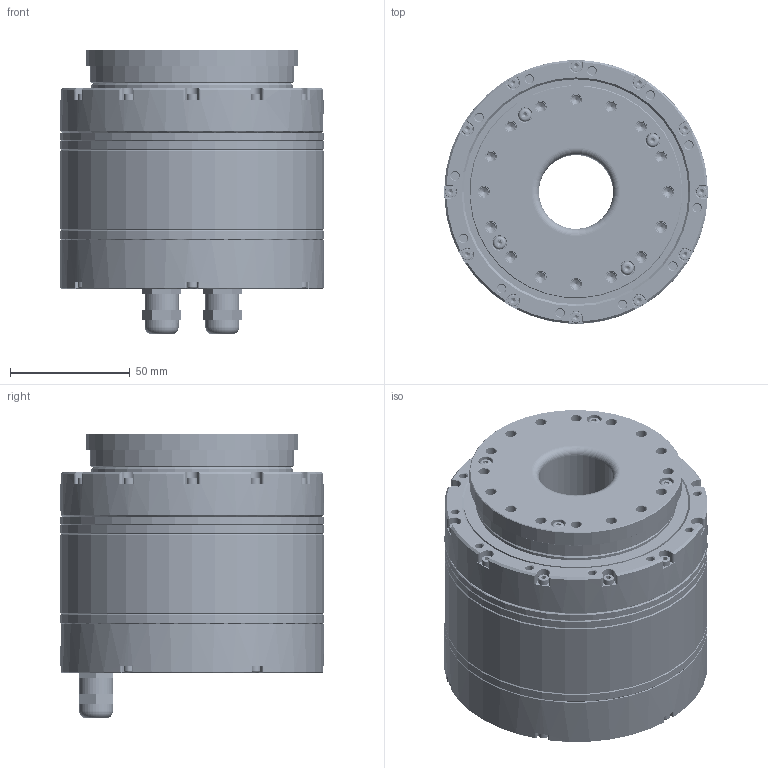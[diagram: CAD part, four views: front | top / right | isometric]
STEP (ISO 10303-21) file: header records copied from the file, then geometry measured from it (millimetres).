
FILE_DESCRIPTION(/* description */ (''),/* implementation_level */ '2;1');
FILE_NAME(/* name */ 'MIS25D-BF-C00.stp',/* time_stamp */ '2025-04-17T15:47:51+08:00',/* author */ (''),/* organization */ (''),/* preprocessor_version */ 'ST-DEVELOPER v16.7',/* originating_system */ 'SIEMENS PLM Software NX 12.0',/* authorisation */ '');
FILE_SCHEMA (('AUTOMOTIVE_DESIGN { 1 0 10303 214 3 1 1 1 }'));
Length unit declared in the file: millimetre
Products named in the file (1): MIS25D-BF-C00
Bounding box: 110 x 110 x 119 mm (x, y, z)
Volume: 351810.3 mm3; surface area: 235050 mm2
Topology: 54 solids, 58 shells, 2594 faces, 5836 edges, 3437 vertices
Faces by surface type: cone 979, plane 948, cylinder 570, torus 97
Full cylindrical faces by diameter (mm): 1.6 x10, 2 x2, 2.05 x36, 2.38 x24, 2.5 x22, 2.7 x54, 2.874 x16, 3.2 x4, 3.3 x32, 3.5 x16, 3.7 x6, 4 x6, 4.5 x50, 5.5 x16, 6 x16, 8 x8, 12 x6, 14 x4, 31 x1, 32 x1, 34 x1, 34.8 x1, 45 x1, 49 x2, 52 x2, 54 x1, 56 x1, 59 x1, 61.341 x1, 62.161 x1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
Entity records: 67728 total; most frequent: CARTESIAN_POINT 13736, DIRECTION 11696, ORIENTED_EDGE 8950, AXIS2_PLACEMENT_3D 5063, EDGE_CURVE 4475, EDGE_LOOP 4009, VERTEX_POINT 3192, FACE_BOUND 2711
